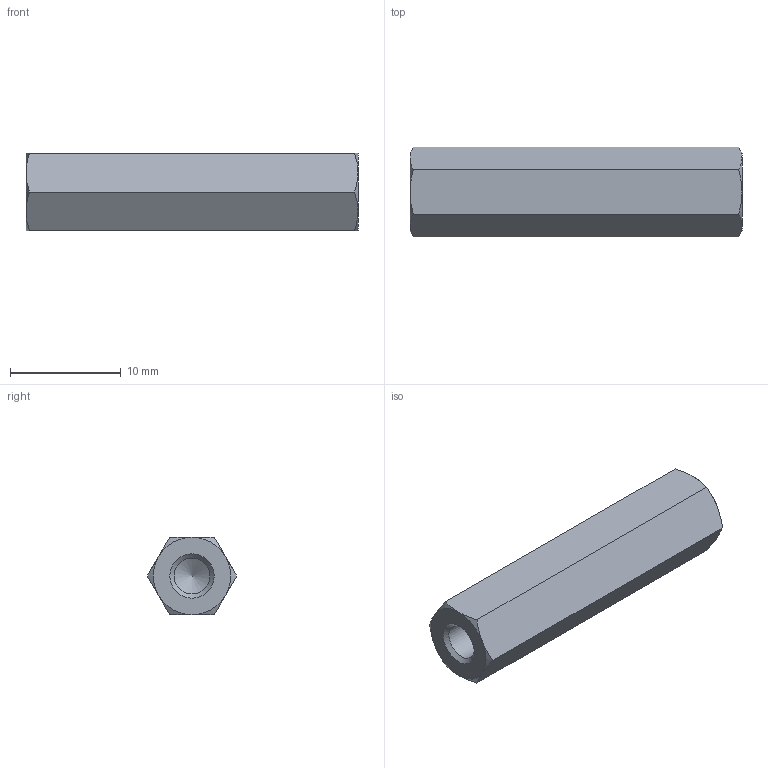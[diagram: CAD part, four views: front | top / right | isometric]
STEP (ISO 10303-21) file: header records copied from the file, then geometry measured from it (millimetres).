
FILE_DESCRIPTION( ( 'STEP AP203' ), '1' );
FILE_NAME( 'C:/Temp/Ganter_Step_05_03_2020/data/3_2/gn6220/gn6220_st/Spacer GN 6220-ST-M4-30-A.stp', '2020-03-13T05:42:24', ( 'License CC BY-ND 4.0' ), ( 'CADENAS' ), ' ', 'PARTsolutions', ' ' );
FILE_SCHEMA( ( 'CONFIG_CONTROL_DESIGN' ) );
Length unit declared in the file: millimetre
Products named in the file (1): _Spacer GN 6220-ST-M4-30-A
Bounding box: 30 x 8.08 x 7 mm (x, y, z)
Volume: 1037.5 mm3; surface area: 1088.1 mm2
Topology: 1 solids, 1 shells, 26 faces, 57 edges, 33 vertices
Faces by surface type: cone 16, plane 8, cylinder 2
Full cylindrical faces by diameter (mm): 3.242 x2
Entity records: 750 total; most frequent: CARTESIAN_POINT 211, DIRECTION 96, ORIENTED_EDGE 96, EDGE_CURVE 48, AXIS2_PLACEMENT_3D 45, EDGE_LOOP 32, VERTEX_POINT 32, FACE_OUTER_BOUND 28
